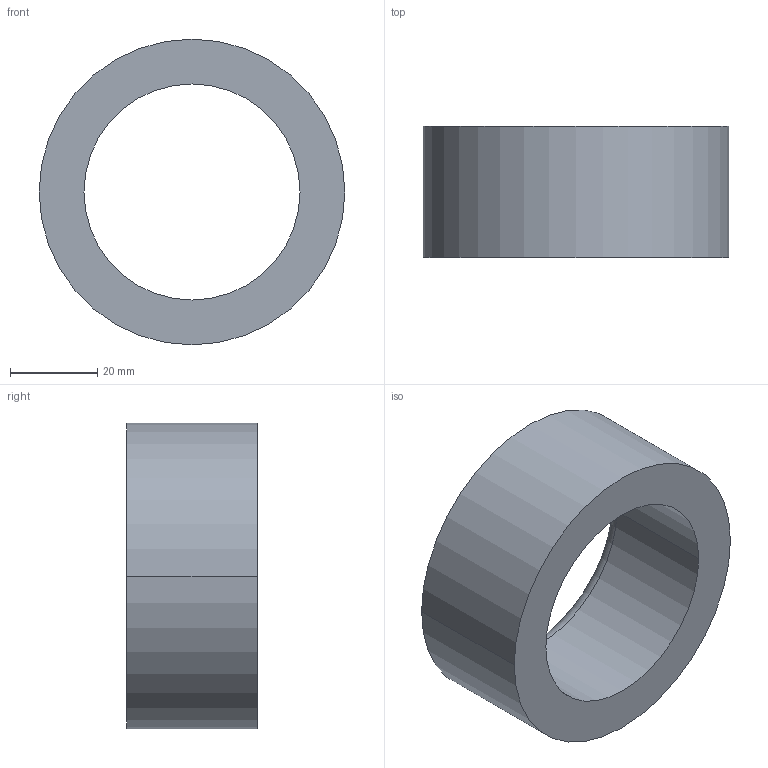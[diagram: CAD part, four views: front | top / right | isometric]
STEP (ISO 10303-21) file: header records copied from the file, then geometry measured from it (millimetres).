
FILE_DESCRIPTION (( 'STEP AP203' ), '1' );
FILE_NAME ('30800.WPP70L49.5.step', '2019-01-23T22:59:19', ( '' ), ( '' ), 'SwSTEP 2.0', 'SolidWorks 2017', '' );
FILE_SCHEMA (( 'CONFIG_CONTROL_DESIGN' ));
Length unit declared in the file: millimetre
Products named in the file (1): 30800.WPP70L49.5
Bounding box: 70 x 30 x 70 mm (x, y, z)
Volume: 57299.1 mm3; surface area: 14882.5 mm2
Topology: 1 solids, 1 shells, 8 faces, 16 edges, 10 vertices
Faces by surface type: cylinder 4, torus 2, plane 2
Entity records: 297 total; most frequent: DIRECTION 46, CARTESIAN_POINT 35, ORIENTED_EDGE 32, AXIS2_PLACEMENT_3D 21, EDGE_CURVE 16, CIRCLE 12, VERTEX_POINT 10, EDGE_LOOP 10
